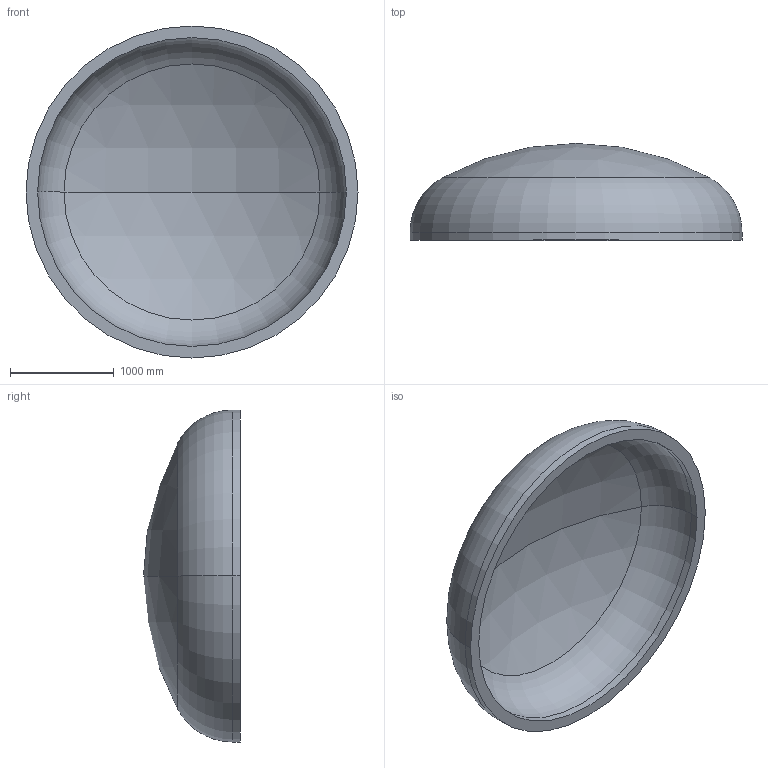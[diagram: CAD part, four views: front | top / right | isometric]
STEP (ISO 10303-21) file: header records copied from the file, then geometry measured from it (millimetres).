
FILE_DESCRIPTION (( 'STEP AP203' ), '1' );
FILE_NAME ('DIN 28013 Korbbogenform_-_Boden DIN 28013 - 3200 x 75 - I - s=112.step', '2016-07-01T19:02:10', ( '' ), ( '' ), 'SwSTEP 2.0', 'SolidWorks 2013', '' );
FILE_SCHEMA (( 'CONFIG_CONTROL_DESIGN' ));
Length unit declared in the file: millimetre
Products named in the file (1): DIN 28013 Korbbogenform_-_Boden DIN 28013 - 3200 x 75 - I - s=112
Bounding box: 3200 x 933.47 x 3200 mm (x, y, z)
Volume: 1272124260.2 mm3; surface area: 23829308 mm2
Topology: 1 solids, 1 shells, 13 faces, 24 edges, 14 vertices
Faces by surface type: torus 4, cylinder 4, sphere 4, plane 1
Entity records: 407 total; most frequent: DIRECTION 72, CARTESIAN_POINT 52, ORIENTED_EDGE 48, AXIS2_PLACEMENT_3D 34, EDGE_CURVE 24, CIRCLE 20, EDGE_LOOP 14, VERTEX_POINT 14
